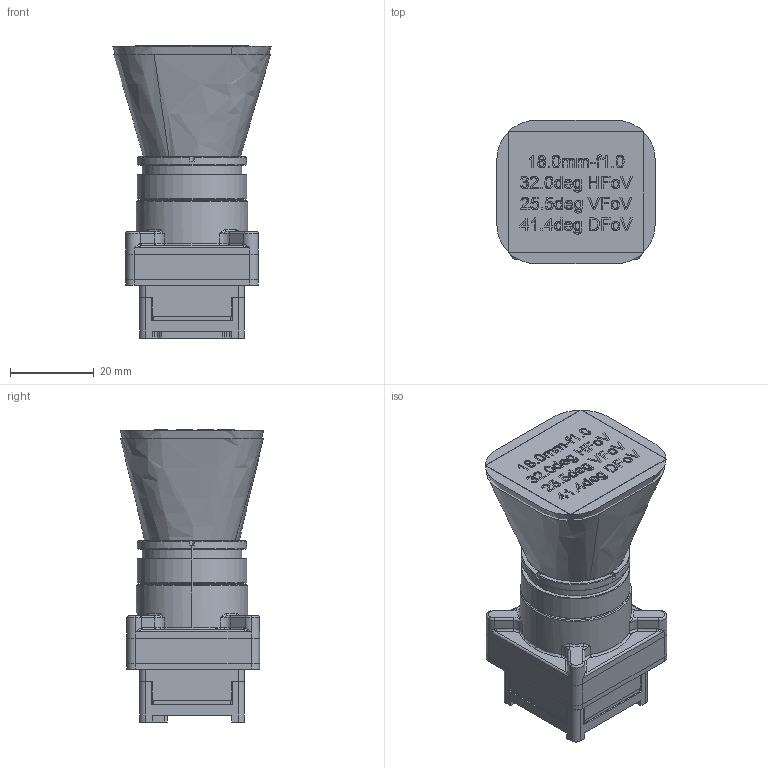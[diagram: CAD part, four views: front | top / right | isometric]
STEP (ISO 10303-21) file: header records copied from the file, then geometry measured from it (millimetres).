
FILE_DESCRIPTION (( 'STEP AP214' ), '1' );
FILE_NAME ('801280X0032-XXXXXX Boson SX8, 18mm-f1.0, 32deg HFoV Export.STEP', '2026-05-07T16:32:55', ( '' ), ( '' ), 'SwSTEP 2.0', 'SolidWorks 2025', '' );
FILE_SCHEMA (( 'AUTOMOTIVE_DESIGN' ));
Length unit declared in the file: millimetre
Products named in the file (4): 80-Boson SX8 Camera Core M24; 801280X0032-XXXXXX Boson SX8, 18mm-f1.0, 32deg HFoV Export; Lens Assy, 18mm-f1.0, 32deg HFoV; Optical Cone, 18mm-f1.0, 32deg HFoV
Assembly tree (3 placements, depth 2):
  801280X0032-XXXXXX Boson SX8, 18mm-f1.0, 32deg HFoV Export
    80-Boson SX8 Camera Core M24
    Lens Assy, 18mm-f1.0, 32deg HFoV
    Optical Cone, 18mm-f1.0, 32deg HFoV
Bounding box: 37.7 x 34.08 x 69.62 mm (x, y, z)
Volume: 58076.8 mm3; surface area: 31785 mm2
Topology: 30 solids, 33 shells, 7228 faces, 19327 edges, 12555 vertices
Faces by surface type: plane 4846, cylinder 1442, bspline 469, torus 233, cone 222, sphere 16
Entity records: 326585 total; most frequent: CARTESIAN_POINT 67096, ORIENTED_EDGE 38570, DIRECTION 35046, EDGE_CURVE 19285, VECTOR 14774, LINE 14774, VERTEX_POINT 12555, AXIS2_PLACEMENT_3D 10136
